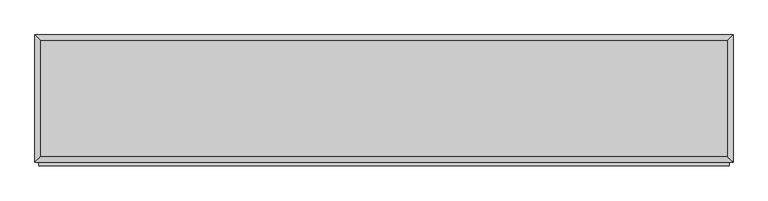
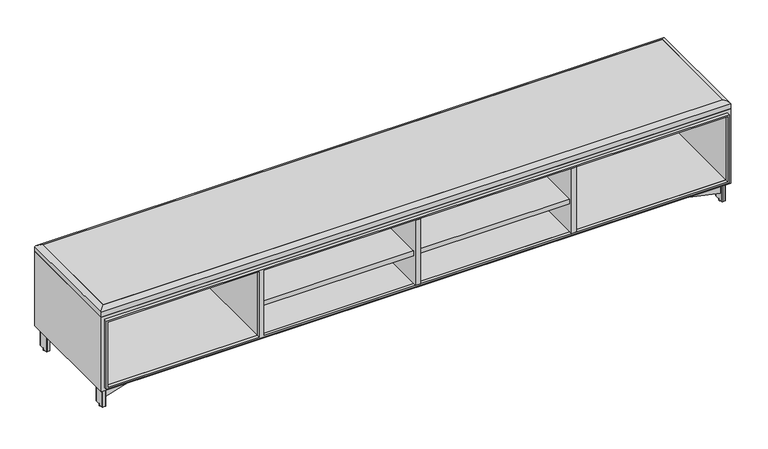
"""IFC4 building model written with IfcOpenShell, lengths in millimetres: furniture geometry, Steelcase Coalesse - Exponents - Seating - Bench : Open - 96W -  Metal Base."""

from ifc_helpers import new_model, si_unit, point, frame, frame_2d, origin, origin_with_axes, place, context, project, spatial, polyline, circle_curve, ellipse_curve, trimmed, segment, composite_curve, outline, extrude, faceted_brep, source, transform, mapped, element, save
from ifc_brep_helpers import plane_surface, cylinder_surface, advanced_brep


def furniture_18ccb910(model_context):
    return source(origin(), model_context, "Body", "SolidModel", [
        extrude(outline(composite_curve([segment(trimmed(circle_curve(frame_2d((1831.848, 252.476)), 1.524), [point((1831.848, 254.0))], [point((1833.372, 252.476))], False, "CARTESIAN"), True, "CONTINUOUS"), segment(polyline([(1833.372, 252.476), (1833.372, 217.424)]), True, "CONTINUOUS"), segment(trimmed(circle_curve(frame_2d((1831.848, 217.424)), 1.524), [point((1833.372, 217.424))], [point((1831.848, 215.9))], False, "CARTESIAN"), True, "CONTINUOUS"), segment(polyline([(1831.848, 215.9), (1815.958829, 215.9)]), True, "CONTINUOUS"), segment(trimmed(circle_curve(frame_2d((1815.958829, 217.536829)), 1.636829), [point((1815.958829, 215.9))], [point((1814.322, 217.536829))], False, "CARTESIAN"), True, "CONTINUOUS"), segment(polyline([(1814.322, 217.536829), (1814.322, 252.476)]), True, "CONTINUOUS"), segment(trimmed(circle_curve(frame_2d((1815.846, 252.476)), 1.524), [point((1814.322, 252.476))], [point((1815.846, 254.0))], False, "CARTESIAN"), True, "CONTINUOUS"), segment(polyline([(1815.846, 254.0), (1831.848, 254.0)]), True, "CONTINUOUS")], self_intersect=False)), frame((0.0, 0.0, 6.3754), z_axis=(0.0, 0.0, 1.0), x_axis=(1.0, 0.0, 0.0)), (0.0, 0.0, 1.0), 73.152),
        extrude(outline(composite_curve([segment(trimmed(circle_curve(frame_2d((1823.8695581, 234.844279)), 6.35), [point((1817.5195581, 234.844279))], [point((1830.2195581, 234.844279))], False, "CARTESIAN"), True, "CONTINUOUS"), segment(trimmed(circle_curve(frame_2d((1823.8695581, 234.844279)), 6.35), [point((1830.2195581, 234.844279))], [point((1817.5195581, 234.844279))], False, "CARTESIAN"), True, "CONTINUOUS")], self_intersect=False)), origin_with_axes(), (0.0, 0.0, 1.0), 6.3754),
        extrude(outline(polyline([(1879.7082257, 285.75), (1879.7082257, 184.15), (1778.1082257, 184.15), (1778.1082257, 285.75), (1879.7082257, 285.75)])), frame((0.0, 0.0, 79.5274), z_axis=(0.0, 0.0, 1.0), x_axis=(1.0, 0.0, 0.0)), (0.0, 0.0, 1.0), 3.048),
        faceted_brep([(2412.619, 428.1633485, 82.55), (1833.372, 251.7961151, 82.55), (1833.372, 218.1038849, 82.55), (2412.619, 37.8529725, 82.55), (2412.619, 57.8040065, 82.55), (1843.3498412, 234.95, 82.55), (2412.619, 408.2123144, 82.55), (2412.619, 428.1633485, 34.925), (2412.619, 408.2123144, 34.925), (1843.4031998, 234.9333958, 34.925), (2412.619, 57.8040065, 34.925), (2412.619, 37.8529725, 34.925), (1833.372, 218.1038849, 34.925), (1833.372, 251.7961151, 34.925)], [[[0, 1, 2, 3, 4, 5, 6]], [[7, 8, 9, 10, 11, 12, 13]], [[1, 0, 7, 13]], [[2, 1, 13, 12]], [[3, 2, 12, 11]], [[4, 3, 11, 10]], [[5, 4, 10, 9]], [[6, 5, 9, 8]], [[0, 6, 8, 7]]]),
        extrude(outline(polyline([(1209.548, 12.7), (623.824, 12.7), (623.824, 438.15), (1209.548, 438.15), (1209.548, 12.7)])), frame((0.0, 0.0, 215.9), z_axis=(0.0, 0.0, 1.0), x_axis=(1.0, 0.0, 0.0)), (0.0, 0.0, 1.0), 19.05),
        advanced_brep(
        [(0.0, 12.7, 406.6283237), (0.0, 12.7, 387.35), (2438.4, 12.7, 387.35), (2438.4, 12.7, 406.6283237), (2438.4, 457.2, 406.6283237), (2438.4, 457.2, 387.35), (0.0, 457.2, 387.35), (0.0, 457.2, 406.6283237), (2419.35, 31.75, 406.6283237), (2419.35, 438.15, 406.6283237), (19.05, 438.15, 406.6283237), (19.05, 31.75, 406.6283237), (2419.35, 438.15, 419.0696271), (2419.35, 31.75, 419.0696271), (19.05, 31.75, 419.0696271), (19.05, 438.15, 419.0696271)],
        [
            (0, 1),
            (1, 2),
            (2, 3),
            (3, 0),
            (4, 5),
            (5, 6),
            (6, 7),
            (7, 4),
            (8, 9),
            (9, 10),
            (10, 11),
            (11, 8),
            (0, 7),
            (6, 1),
            (5, 2),
            (4, 3),
            (12, 9),
            (8, 13),
            (13, 12),
            (13, 3, ellipse_curve(frame((2417.7973666, 33.3026334, 395.8870134), z_axis=(0.7071067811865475, 0.7071067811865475, 0.0), x_axis=(-0.7071067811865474, 0.7071067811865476, 0.0)), 32.8586138, 23.2345486)),
            (4, 12, ellipse_curve(frame((2417.7973666, 436.5973666, 395.8870134), z_axis=(0.7071067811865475, -0.7071067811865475, 0.0), x_axis=(0.7071067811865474, 0.7071067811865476, 0.0)), 32.8586138, 23.2345486)),
            (11, 14),
            (14, 13),
            (14, 0, ellipse_curve(frame((20.6026334, 33.3026334, 395.8870134), z_axis=(0.7071067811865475, -0.7071067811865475, 0.0), x_axis=(0.7071067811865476, 0.7071067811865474, 0.0)), 32.8586138, 23.2345486)),
            (10, 15),
            (15, 14),
            (15, 7, ellipse_curve(frame((20.6026334, 436.5973666, 395.8870134), z_axis=(-0.7071067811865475, -0.7071067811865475, 0.0), x_axis=(0.7071067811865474, -0.7071067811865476, 0.0)), 32.8586138, 23.2345486)),
            (12, 15),
        ],
        [
            plane_surface(frame((0.0, 12.7, 406.6283237), z_axis=(0.0, -1.0, 0.0), x_axis=(-1.0, 0.0, 0.0))),
            plane_surface(frame((0.0, 457.2, 406.6283237), z_axis=(0.0, 1.0, 0.0), x_axis=(1.0, 0.0, 0.0))),
            plane_surface(frame((2438.4, 12.7, 406.6283237), z_axis=(0.0, 0.0, 1.0), x_axis=(0.0, 1.0, 0.0))),
            plane_surface(frame((0.0, 12.7, 406.6283237), z_axis=(-1.0, 0.0, 1.677988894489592e-12), x_axis=(0.0, 1.0, 0.0))),
            plane_surface(frame((0.0, 12.7, 387.35), z_axis=(0.0, 0.0, -1.0), x_axis=(0.0, 1.0, 0.0))),
            plane_surface(frame((2438.4, 12.7, 387.35), z_axis=(1.0, 0.0, 0.0), x_axis=(0.0, 1.0, 0.0))),
            plane_surface(frame((2419.35, 438.15, 406.6284102), z_axis=(-1.0, 0.0, 0.0), x_axis=(0.0, -1.0, 0.0))),
            cylinder_surface(frame((2417.7973666, 457.2, 395.8870134), z_axis=(0.0, 1.0, 0.0), x_axis=(1.0, 0.0, 0.0)), 23.2345486),
            plane_surface(frame((2419.35, 31.75, 406.6284102), z_axis=(0.0, 1.0, 0.0), x_axis=(-1.0, 0.0, 0.0))),
            cylinder_surface(frame((2438.4, 33.3026334, 395.8870134), z_axis=(1.0, 0.0, 0.0), x_axis=(0.0, -1.0, 0.0)), 23.2345486),
            plane_surface(frame((19.05, 31.75, 406.6284102), z_axis=(1.0, 0.0, 0.0), x_axis=(0.0, 1.0, 0.0))),
            cylinder_surface(frame((20.6026334, 12.7, 395.8870134), z_axis=(0.0, -1.0, 0.0), x_axis=(-1.0, 0.0, 0.0)), 23.2345486),
            plane_surface(frame((19.05, 438.15, 406.6284102), z_axis=(0.0, -1.0, 0.0), x_axis=(1.0, 0.0, 0.0))),
            cylinder_surface(frame((0.0, 436.5973666, 395.8870134), z_axis=(-1.0, 0.0, 0.0), x_axis=(0.0, 1.0, 0.0)), 23.2345486),
        ],
        [
            (0, [[1, 2, 3, 4]]),
            (1, [[5, 6, 7, 8]]),
            (2, [[9, 10, 11, 12]]),
            (3, [[-1, 13, -7, 14]]),
            (4, [[-2, -14, -6, 15]]),
            (5, [[-3, -15, -5, 16]]),
            (6, [[17, -9, 18, 19]]),
            (7, [[-19, 20, -16, 21]]),
            (8, [[-18, -12, 22, 23]]),
            (9, [[-20, -23, 24, -4]]),
            (10, [[-22, -11, 25, 26]]),
            (11, [[-24, -26, 27, -13]]),
            (12, [[-17, 28, -25, -10]]),
            (13, [[-21, -8, -27, -28]]),
        ],
    ),
        extrude(outline(polyline([(1814.322, 12.7), (1228.598, 12.7), (1228.598, 438.15), (1814.322, 438.15), (1814.322, 12.7)])), frame((0.0, 0.0, 215.9), z_axis=(0.0, 0.0, 1.0), x_axis=(1.0, 0.0, 0.0)), (0.0, 0.0, 1.0), 19.05),
        extrude(outline(composite_curve([segment(trimmed(circle_curve(frame_2d((1219.3711957, 234.844279)), 6.35), [point((1213.0211957, 234.844279))], [point((1225.7211957, 234.844279))], False, "CARTESIAN"), True, "CONTINUOUS"), segment(trimmed(circle_curve(frame_2d((1219.3711957, 234.844279)), 6.35), [point((1225.7211957, 234.844279))], [point((1213.0211957, 234.844279))], False, "CARTESIAN"), True, "CONTINUOUS")], self_intersect=False)), origin_with_axes(), (0.0, 0.0, 1.0), 6.3754),
        extrude(outline(composite_curve([segment(trimmed(circle_curve(frame_2d((1227.074, 252.476)), 1.524), [point((1227.074, 254.0))], [point((1228.598, 252.476))], False, "CARTESIAN"), True, "CONTINUOUS"), segment(polyline([(1228.598, 252.476), (1228.598, 217.424)]), True, "CONTINUOUS"), segment(trimmed(circle_curve(frame_2d((1227.074, 217.424)), 1.524), [point((1228.598, 217.424))], [point((1227.074, 215.9))], False, "CARTESIAN"), True, "CONTINUOUS"), segment(polyline([(1227.074, 215.9), (1211.184829, 215.9)]), True, "CONTINUOUS"), segment(trimmed(circle_curve(frame_2d((1211.184829, 217.536829)), 1.636829), [point((1211.184829, 215.9))], [point((1209.548, 217.536829))], False, "CARTESIAN"), True, "CONTINUOUS"), segment(polyline([(1209.548, 217.536829), (1209.548, 252.476)]), True, "CONTINUOUS"), segment(trimmed(circle_curve(frame_2d((1211.072, 252.476)), 1.524), [point((1209.548, 252.476))], [point((1211.072, 254.0))], False, "CARTESIAN"), True, "CONTINUOUS"), segment(polyline([(1211.072, 254.0), (1227.074, 254.0)]), True, "CONTINUOUS")], self_intersect=False)), frame((0.0, 0.0, 6.3754), z_axis=(0.0, 0.0, 1.0), x_axis=(1.0, 0.0, 0.0)), (0.0, 0.0, 1.0), 73.152),
        extrude(outline(polyline([(1265.2060257, 285.75), (1265.2060257, 184.15), (1163.6060257, 184.15), (1163.6060257, 285.75), (1265.2060257, 285.75)])), frame((0.0, 0.0, 79.5274), z_axis=(0.0, 0.0, 1.0), x_axis=(1.0, 0.0, 0.0)), (0.0, 0.0, 1.0), 3.048),
        extrude(outline(composite_curve([segment(trimmed(circle_curve(frame_2d((614.4757069, 234.844279)), 6.35), [point((608.1257069, 234.844279))], [point((620.8257069, 234.844279))], False, "CARTESIAN"), True, "CONTINUOUS"), segment(trimmed(circle_curve(frame_2d((614.4757069, 234.844279)), 6.35), [point((620.8257069, 234.844279))], [point((608.1257069, 234.844279))], False, "CARTESIAN"), True, "CONTINUOUS")], self_intersect=False)), origin_with_axes(), (0.0, 0.0, 1.0), 6.3754),
        extrude(outline(composite_curve([segment(trimmed(circle_curve(frame_2d((622.3, 252.476)), 1.524), [point((622.3, 254.0))], [point((623.824, 252.476))], False, "CARTESIAN"), True, "CONTINUOUS"), segment(polyline([(623.824, 252.476), (623.824, 217.424)]), True, "CONTINUOUS"), segment(trimmed(circle_curve(frame_2d((622.3, 217.424)), 1.524), [point((623.824, 217.424))], [point((622.3, 215.9))], False, "CARTESIAN"), True, "CONTINUOUS"), segment(polyline([(622.3, 215.9), (606.410829, 215.9)]), True, "CONTINUOUS"), segment(trimmed(circle_curve(frame_2d((606.410829, 217.536829)), 1.636829), [point((606.410829, 215.9))], [point((604.774, 217.536829))], False, "CARTESIAN"), True, "CONTINUOUS"), segment(polyline([(604.774, 217.536829), (604.774, 252.476)]), True, "CONTINUOUS"), segment(trimmed(circle_curve(frame_2d((606.298, 252.476)), 1.524), [point((604.774, 252.476))], [point((606.298, 254.0))], False, "CARTESIAN"), True, "CONTINUOUS"), segment(polyline([(606.298, 254.0), (622.3, 254.0)]), True, "CONTINUOUS")], self_intersect=False)), frame((0.0, 0.0, 6.3754), z_axis=(0.0, 0.0, 1.0), x_axis=(1.0, 0.0, 0.0)), (0.0, 0.0, 1.0), 73.152),
        extrude(outline(polyline([(1833.372, 438.15), (1833.372, 0.0), (1814.322, 0.0), (1814.322, 438.15), (1833.372, 438.15)])), frame((0.0, 0.0, 101.8032), z_axis=(0.0, 0.0, 1.0), x_axis=(1.0, 0.0, 0.0)), (0.0, 0.0, 1.0), 266.2936),
        extrude(outline(polyline([(1228.598, 438.15), (1228.598, 0.0), (1209.548, 0.0), (1209.548, 438.15), (1228.598, 438.15)])), frame((0.0, 0.0, 101.6), z_axis=(0.0, 0.0, 1.0), x_axis=(1.0, 0.0, 0.0)), (0.0, 0.0, 1.0), 266.7),
        faceted_brep([(2438.4, 12.7, 387.35), (0.0, 12.7, 387.35), (0.0, 12.7, 82.55), (2438.4, 12.7, 82.55), (19.05, 12.7, 368.0968), (604.774, 12.7, 368.0968), (604.774, 12.7, 101.8032), (19.05, 12.7, 101.8032), (623.824, 12.7, 368.0968), (2419.35, 12.7, 368.0968), (2419.35, 12.7, 101.8032), (623.824, 12.7, 101.8032), (2438.4, 457.2, 387.35), (2438.4, 457.2, 82.55), (0.0, 457.2, 82.55), (0.0, 457.2, 387.35), (604.774, 438.15, 368.0968), (19.05, 438.15, 368.0968), (19.05, 438.15, 101.8032), (604.774, 438.15, 101.8032), (2419.35, 438.15, 368.0968), (623.824, 438.15, 368.0968), (623.824, 438.15, 101.8032), (2419.35, 438.15, 101.8032)], [[[0, 1, 2, 3], [4, 5, 6, 7], [8, 9, 10, 11]], [[12, 13, 14, 15]], [[1, 0, 12, 15]], [[2, 1, 15, 14]], [[3, 2, 14, 13]], [[0, 3, 13, 12]], [[16, 17, 18, 19]], [[20, 21, 22, 23]], [[17, 16, 5, 4]], [[18, 17, 4, 7]], [[19, 18, 7, 6]], [[16, 19, 6, 5]], [[21, 20, 9, 8]], [[22, 21, 8, 11]], [[23, 22, 11, 10]], [[20, 23, 10, 9]]]),
        extrude(outline(polyline([(660.4, 285.75), (660.4, 184.15), (558.8, 184.15), (558.8, 285.75), (660.4, 285.75)])), frame((0.0, 0.0, 79.5274), z_axis=(0.0, 0.0, 1.0), x_axis=(1.0, 0.0, 0.0)), (0.0, 0.0, 1.0), 3.048),
        extrude(outline(composite_curve([segment(trimmed(circle_curve(frame_2d((19.163053, 47.5933344)), 6.35), [point((25.513053, 47.5933344))], [point((12.813053, 47.5933344))], False, "CARTESIAN"), True, "CONTINUOUS"), segment(trimmed(circle_curve(frame_2d((19.163053, 47.5933344)), 6.35), [point((12.813053, 47.5933344))], [point((25.513053, 47.5933344))], False, "CARTESIAN"), True, "CONTINUOUS")], self_intersect=False)), origin_with_axes(), (0.0, 0.0, 1.0), 6.3754),
        extrude(outline(composite_curve([segment(trimmed(circle_curve(frame_2d((14.224, 26.924)), 1.524), [point((14.224, 25.4))], [point((12.7, 26.924))], False, "CARTESIAN"), True, "CONTINUOUS"), segment(polyline([(12.7, 26.924), (12.7, 68.326)]), True, "CONTINUOUS"), segment(trimmed(circle_curve(frame_2d((14.224, 68.326)), 1.524), [point((12.7, 68.326))], [point((14.224, 69.85))], False, "CARTESIAN"), True, "CONTINUOUS"), segment(polyline([(14.224, 69.85), (23.661571, 69.85)]), True, "CONTINUOUS"), segment(trimmed(circle_curve(frame_2d((23.661571, 68.213171)), 1.636829), [point((23.661571, 69.85))], [point((25.2984, 68.213171))], False, "CARTESIAN"), True, "CONTINUOUS"), segment(polyline([(25.2984, 68.213171), (25.2984, 26.924)]), True, "CONTINUOUS"), segment(trimmed(circle_curve(frame_2d((23.7744, 26.924)), 1.524), [point((25.2984, 26.924))], [point((23.7744, 25.4))], False, "CARTESIAN"), True, "CONTINUOUS"), segment(polyline([(23.7744, 25.4), (14.224, 25.4)]), True, "CONTINUOUS")], self_intersect=False)), frame((0.0, 0.0, 6.3754), z_axis=(0.0, 0.0, 1.0), x_axis=(1.0, 0.0, 0.0)), (0.0, 0.0, 1.0), 73.152),
        extrude(outline(polyline([(6.35, 19.05), (6.35, 120.65), (107.95, 120.65), (107.95, 19.05), (6.35, 19.05)])), frame((0.0, 0.0, 79.5274), z_axis=(0.0, 0.0, 1.0), x_axis=(1.0, 0.0, 0.0)), (0.0, 0.0, 1.0), 3.048),
        extrude(outline(composite_curve([segment(trimmed(circle_curve(frame_2d((19.163053, 422.3066656)), 6.35), [point((25.513053, 422.3066656))], [point((12.813053, 422.3066656))], False, "CARTESIAN"), True, "CONTINUOUS"), segment(trimmed(circle_curve(frame_2d((19.163053, 422.3066656)), 6.35), [point((12.813053, 422.3066656))], [point((25.513053, 422.3066656))], False, "CARTESIAN"), True, "CONTINUOUS")], self_intersect=False)), origin_with_axes(), (0.0, 0.0, 1.0), 6.3754),
        extrude(outline(composite_curve([segment(polyline([(14.224, 444.5), (23.7744, 444.5)]), True, "CONTINUOUS"), segment(trimmed(circle_curve(frame_2d((23.7744, 442.976)), 1.524), [point((23.7744, 444.5))], [point((25.2984, 442.976))], False, "CARTESIAN"), True, "CONTINUOUS"), segment(polyline([(25.2984, 442.976), (25.2984, 401.686829)]), True, "CONTINUOUS"), segment(trimmed(circle_curve(frame_2d((23.661571, 401.686829)), 1.636829), [point((25.2984, 401.686829))], [point((23.661571, 400.05))], False, "CARTESIAN"), True, "CONTINUOUS"), segment(polyline([(23.661571, 400.05), (14.224, 400.05)]), True, "CONTINUOUS"), segment(trimmed(circle_curve(frame_2d((14.224, 401.574)), 1.524), [point((14.224, 400.05))], [point((12.7, 401.574))], False, "CARTESIAN"), True, "CONTINUOUS"), segment(polyline([(12.7, 401.574), (12.7, 442.976)]), True, "CONTINUOUS"), segment(trimmed(circle_curve(frame_2d((14.224, 442.976)), 1.524), [point((12.7, 442.976))], [point((14.224, 444.5))], False, "CARTESIAN"), True, "CONTINUOUS")], self_intersect=False)), frame((0.0, 0.0, 6.3754), z_axis=(0.0, 0.0, 1.0), x_axis=(1.0, 0.0, 0.0)), (0.0, 0.0, 1.0), 73.152),
        extrude(outline(polyline([(6.35, 450.85), (107.95, 450.85), (107.95, 349.25), (6.35, 349.25), (6.35, 450.85)])), frame((0.0, 0.0, 79.5274), z_axis=(0.0, 0.0, 1.0), x_axis=(1.0, 0.0, 0.0)), (0.0, 0.0, 1.0), 3.048),
        extrude(outline(composite_curve([segment(trimmed(circle_curve(frame_2d((2419.0706, 47.5933344)), 6.35), [point((2412.7206, 47.5933344))], [point((2425.4206, 47.5933344))], False, "CARTESIAN"), True, "CONTINUOUS"), segment(trimmed(circle_curve(frame_2d((2419.0706, 47.5933344)), 6.35), [point((2425.4206, 47.5933344))], [point((2412.7206, 47.5933344))], False, "CARTESIAN"), True, "CONTINUOUS")], self_intersect=False)), origin_with_axes(), (0.0, 0.0, 1.0), 6.3754),
        extrude(outline(composite_curve([segment(polyline([(2423.8966, 25.4), (2414.143, 25.4)]), True, "CONTINUOUS"), segment(trimmed(circle_curve(frame_2d((2414.143, 26.924)), 1.524), [point((2414.143, 25.4))], [point((2412.619, 26.924))], False, "CARTESIAN"), True, "CONTINUOUS"), segment(polyline([(2412.619, 26.924), (2412.619, 68.213171)]), True, "CONTINUOUS"), segment(trimmed(circle_curve(frame_2d((2414.255829, 68.213171)), 1.636829), [point((2412.619, 68.213171))], [point((2414.255829, 69.85))], False, "CARTESIAN"), True, "CONTINUOUS"), segment(polyline([(2414.255829, 69.85), (2423.8966, 69.85)]), True, "CONTINUOUS"), segment(trimmed(circle_curve(frame_2d((2423.8966, 68.326)), 1.524), [point((2423.8966, 69.85))], [point((2425.4206, 68.326))], False, "CARTESIAN"), True, "CONTINUOUS"), segment(polyline([(2425.4206, 68.326), (2425.4206, 26.924)]), True, "CONTINUOUS"), segment(trimmed(circle_curve(frame_2d((2423.8966, 26.924)), 1.524), [point((2425.4206, 26.924))], [point((2423.8966, 25.4))], False, "CARTESIAN"), True, "CONTINUOUS")], self_intersect=False)), frame((0.0, 0.0, 6.3754), z_axis=(0.0, 0.0, 1.0), x_axis=(1.0, 0.0, 0.0)), (0.0, 0.0, 1.0), 73.152),
        extrude(outline(polyline([(2432.01225, 19.05), (2330.45, 19.05), (2330.45, 120.65), (2432.01225, 120.65), (2432.01225, 19.05)])), frame((0.0, 0.0, 79.5274), z_axis=(0.0, 0.0, 1.0), x_axis=(1.0, 0.0, 0.0)), (0.0, 0.0, 1.0), 3.048),
        extrude(outline(polyline([(25.2984, 432.1805995), (604.774, 251.858551), (604.774, 218.041449), (25.2984, 37.7194005), (25.2984, 57.6704345), (594.9968002, 234.95), (25.2984, 412.2295655), (25.2984, 432.1805995)])), frame((0.0, 0.0, 34.925), z_axis=(0.0, 0.0, 1.0), x_axis=(1.0, 0.0, 0.0)), (0.0, 0.0, 1.0), 47.625),
        extrude(outline(composite_curve([segment(trimmed(circle_curve(frame_2d((2419.0706, 422.3066656)), 6.35), [point((2412.7206, 422.3066656))], [point((2425.4206, 422.3066656))], False, "CARTESIAN"), True, "CONTINUOUS"), segment(trimmed(circle_curve(frame_2d((2419.0706, 422.3066656)), 6.35), [point((2425.4206, 422.3066656))], [point((2412.7206, 422.3066656))], False, "CARTESIAN"), True, "CONTINUOUS")], self_intersect=False)), origin_with_axes(), (0.0, 0.0, 1.0), 6.3754),
        extrude(outline(composite_curve([segment(trimmed(circle_curve(frame_2d((2423.8966, 442.976)), 1.524), [point((2423.8966, 444.5))], [point((2425.4206, 442.976))], False, "CARTESIAN"), True, "CONTINUOUS"), segment(polyline([(2425.4206, 442.976), (2425.4206, 401.574)]), True, "CONTINUOUS"), segment(trimmed(circle_curve(frame_2d((2423.8966, 401.574)), 1.524), [point((2425.4206, 401.574))], [point((2423.8966, 400.05))], False, "CARTESIAN"), True, "CONTINUOUS"), segment(polyline([(2423.8966, 400.05), (2414.255829, 400.05)]), True, "CONTINUOUS"), segment(trimmed(circle_curve(frame_2d((2414.255829, 401.686829)), 1.636829), [point((2414.255829, 400.05))], [point((2412.619, 401.686829))], False, "CARTESIAN"), True, "CONTINUOUS"), segment(polyline([(2412.619, 401.686829), (2412.619, 442.976)]), True, "CONTINUOUS"), segment(trimmed(circle_curve(frame_2d((2414.143, 442.976)), 1.524), [point((2412.619, 442.976))], [point((2414.143, 444.5))], False, "CARTESIAN"), True, "CONTINUOUS"), segment(polyline([(2414.143, 444.5), (2423.8966, 444.5)]), True, "CONTINUOUS")], self_intersect=False)), frame((0.0, 0.0, 6.3754), z_axis=(0.0, 0.0, 1.0), x_axis=(1.0, 0.0, 0.0)), (0.0, 0.0, 1.0), 73.152),
        extrude(outline(polyline([(2432.01225, 450.85), (2432.01225, 349.25), (2330.45, 349.25), (2330.45, 450.85), (2432.01225, 450.85)])), frame((0.0, 0.0, 79.5274), z_axis=(0.0, 0.0, 1.0), x_axis=(1.0, 0.0, 0.0)), (0.0, 0.0, 1.0), 3.048),
        extrude(outline(polyline([(2419.35, 31.75), (19.05, 31.75), (19.05, 438.15), (2419.35, 438.15), (2419.35, 31.75)])), frame((0.0, 0.0, 406.6283237), z_axis=(0.0, 0.0, 1.0), x_axis=(1.0, 0.0, 0.0)), (0.0, 0.0, 1.0), 12.4413034),
        extrude(outline(polyline([(374.4468, 2425.4206), (374.4468, 12.7), (95.4532, 12.7), (95.4532, 2425.4206), (374.4468, 2425.4206)]), holes=[polyline([(368.0968, 623.824), (368.0968, 2419.35), (101.8032, 2419.35), (101.8032, 623.824), (368.0968, 623.824)]), polyline([(368.0968, 604.774), (101.8032, 604.774), (101.8032, 19.05), (368.0968, 19.05), (368.0968, 604.774)])]), frame((0.0, 0.0, 0.0), z_axis=(0.0, 1.0, 0.0), x_axis=(0.0, 0.0, 1.0)), (0.0, 0.0, 1.0), 12.7),
    ])


if __name__ == "__main__":
    model = new_model("IFC4")
    model_context = context("Model", 3, world=origin())
    ifc_project = project(units=[si_unit("LENGTHUNIT", "METRE", prefix="MILLI")], contexts=[model_context])
    site = spatial("IfcSite", under=ifc_project)
    building = spatial("IfcBuilding", under=site)
    placement = place(None, origin())
    furniture_shape = furniture_18ccb910(model_context)
    element("IfcFurniture", 1, ObjectType="Steelcase Coalesse - Exponents - Seating - Bench : Open - 96W -  Metal Base", at=placement, inside=building, context=model_context, shape_type="MappedRepresentation", body=[
        mapped(furniture_shape, transform((0.0, 0.0, 0.0), x_axis=(1.0, 0.0, 0.0), y_axis=(0.0, 1.0, 0.0), z_axis=(0.0, 0.0, 1.0))),
    ])
    save(model, "model.ifc")
